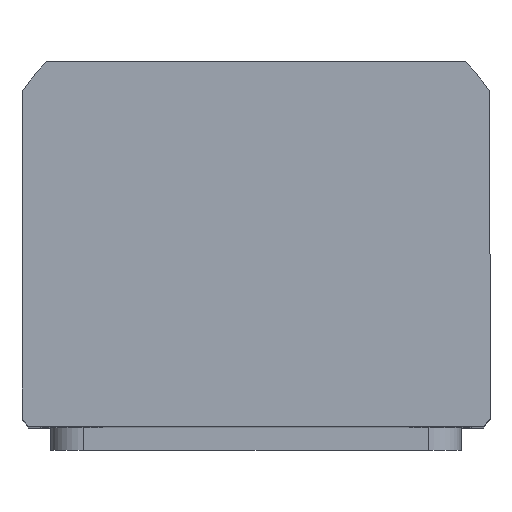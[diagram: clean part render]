
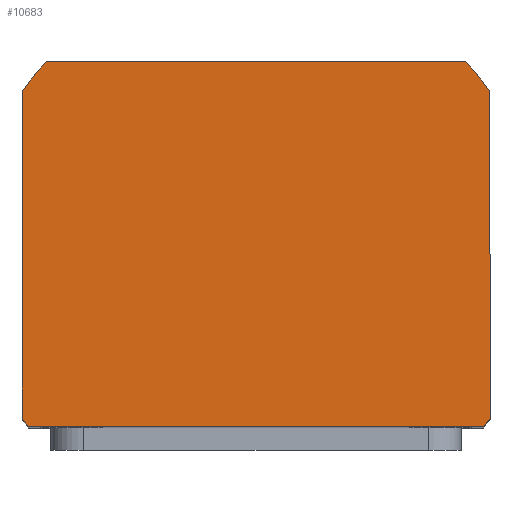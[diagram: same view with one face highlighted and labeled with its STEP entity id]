
A CAD part, top view. The second image highlights one B-rep face of the part: STEP entity #10683.
In plain terms, the highlighted planar face has unit normal (0, 0, 1) as drawn and (0, 0, -1) by its records, which use the part's own axes.
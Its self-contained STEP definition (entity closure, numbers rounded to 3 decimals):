
#323 = CARTESIAN_POINT ( 'NONE',  ( -57., 42.328, 0. ) ) ;
#528 = CARTESIAN_POINT ( 'NONE',  ( 0., 2.563, 0. ) ) ;
#536 = EDGE_CURVE ( 'NONE', #3616, #4615, #9359, .T. ) ;
#745 = CIRCLE ( 'NONE', #16888, 69.5 ) ;
#1037 = VERTEX_POINT ( 'NONE', #1146 ) ;
#1146 = CARTESIAN_POINT ( 'NONE',  ( -51.14, -44.5, 0. ) ) ;
#1536 = CARTESIAN_POINT ( 'NONE',  ( 0., 2.563, 0. ) ) ;
#1569 = AXIS2_PLACEMENT_3D ( 'NONE', #1536, #11390, #2962 ) ;
#1586 = CARTESIAN_POINT ( 'NONE',  ( -55.421, 44.5, 0. ) ) ;
#1763 = ORIENTED_EDGE ( 'NONE', *, *, #12204, .F. ) ;
#1967 = DIRECTION ( 'NONE',  ( 1., 0., 0. ) ) ;
#2164 = LINE ( 'NONE', #13005, #2602 ) ;
#2319 = DIRECTION ( 'NONE',  ( 0., 0., 1. ) ) ;
#2602 = VECTOR ( 'NONE', #6007, 1000. ) ;
#2962 = DIRECTION ( 'NONE',  ( 1., 0., 0. ) ) ;
#3616 = VERTEX_POINT ( 'NONE', #323 ) ;
#3721 = CARTESIAN_POINT ( 'NONE',  ( 57., -37.202, 0. ) ) ;
#3910 = EDGE_CURVE ( 'NONE', #1037, #7936, #14273, .T. ) ;
#4173 = DIRECTION ( 'NONE',  ( 0., 0., 1. ) ) ;
#4186 = EDGE_CURVE ( 'NONE', #14563, #15499, #2164, .T. ) ;
#4615 = VERTEX_POINT ( 'NONE', #16025 ) ;
#4719 = CARTESIAN_POINT ( 'NONE',  ( -57., -44.5, 0. ) ) ;
#5542 = CARTESIAN_POINT ( 'NONE',  ( 0., 2.563, 0. ) ) ;
#5807 = CARTESIAN_POINT ( 'NONE',  ( 51.14, -44.5, 0. ) ) ;
#5818 = EDGE_CURVE ( 'NONE', #17906, #13434, #13362, .T. ) ;
#6007 = DIRECTION ( 'NONE',  ( -1., 0., 0. ) ) ;
#6036 = AXIS2_PLACEMENT_3D ( 'NONE', #12592, #4173, #13994 ) ;
#6183 = CIRCLE ( 'NONE', #1569, 69.5 ) ;
#6200 = DIRECTION ( 'NONE',  ( 1., 0., 0. ) ) ;
#6500 = AXIS2_PLACEMENT_3D ( 'NONE', #528, #10409, #1967 ) ;
#6719 = AXIS2_PLACEMENT_3D ( 'NONE', #17764, #2319, #12169 ) ;
#6913 = EDGE_CURVE ( 'NONE', #4615, #1037, #6183, .T. ) ;
#6957 = DIRECTION ( 'NONE',  ( 1., 0., 0. ) ) ;
#7278 = EDGE_LOOP ( 'NONE', ( #15609, #11411, #14116, #18004, #14543, #16297, #1763, #12287 ) ) ;
#7936 = VERTEX_POINT ( 'NONE', #5807 ) ;
#9153 = CIRCLE ( 'NONE', #6500, 69.5 ) ;
#9359 = LINE ( 'NONE', #11601, #17721 ) ;
#9631 = VECTOR ( 'NONE', #11045, 1000. ) ;
#10409 = DIRECTION ( 'NONE',  ( 0., 0., 1. ) ) ;
#10683 = ADVANCED_FACE ( 'NONE', ( #14697 ), #16356, .F. ) ;
#10972 = VECTOR ( 'NONE', #6200, 1000. ) ;
#11045 = DIRECTION ( 'NONE',  ( 0., 1., 0. ) ) ;
#11390 = DIRECTION ( 'NONE',  ( 0., 0., 1. ) ) ;
#11411 = ORIENTED_EDGE ( 'NONE', *, *, #5818, .F. ) ;
#11451 = CARTESIAN_POINT ( 'NONE',  ( 57., 42.328, 0. ) ) ;
#11601 = CARTESIAN_POINT ( 'NONE',  ( -57., 44.5, 0. ) ) ;
#12169 = DIRECTION ( 'NONE',  ( 1., 0., 0. ) ) ;
#12204 = EDGE_CURVE ( 'NONE', #15499, #3616, #12706, .T. ) ;
#12287 = ORIENTED_EDGE ( 'NONE', *, *, #4186, .F. ) ;
#12592 = CARTESIAN_POINT ( 'NONE',  ( 0., 2.563, 0. ) ) ;
#12706 = CIRCLE ( 'NONE', #6036, 69.5 ) ;
#13005 = CARTESIAN_POINT ( 'NONE',  ( -57., 44.5, 0. ) ) ;
#13186 = DIRECTION ( 'NONE',  ( 0., -1., 0. ) ) ;
#13362 = LINE ( 'NONE', #16771, #9631 ) ;
#13434 = VERTEX_POINT ( 'NONE', #11451 ) ;
#13994 = DIRECTION ( 'NONE',  ( 1., 0., 0. ) ) ;
#14116 = ORIENTED_EDGE ( 'NONE', *, *, #14642, .F. ) ;
#14273 = LINE ( 'NONE', #4719, #10972 ) ;
#14522 = CARTESIAN_POINT ( 'NONE',  ( 55.421, 44.5, 0. ) ) ;
#14543 = ORIENTED_EDGE ( 'NONE', *, *, #6913, .F. ) ;
#14563 = VERTEX_POINT ( 'NONE', #14522 ) ;
#14642 = EDGE_CURVE ( 'NONE', #7936, #17906, #9153, .T. ) ;
#14697 = FACE_OUTER_BOUND ( 'NONE', #7278, .T. ) ;
#15163 = EDGE_CURVE ( 'NONE', #13434, #14563, #745, .T. ) ;
#15385 = DIRECTION ( 'NONE',  ( 0., 0., 1. ) ) ;
#15499 = VERTEX_POINT ( 'NONE', #1586 ) ;
#15609 = ORIENTED_EDGE ( 'NONE', *, *, #15163, .F. ) ;
#16025 = CARTESIAN_POINT ( 'NONE',  ( -57., -37.202, 0. ) ) ;
#16297 = ORIENTED_EDGE ( 'NONE', *, *, #536, .F. ) ;
#16356 = PLANE ( 'NONE',  #6719 ) ;
#16771 = CARTESIAN_POINT ( 'NONE',  ( 57., 44.5, 0. ) ) ;
#16888 = AXIS2_PLACEMENT_3D ( 'NONE', #5542, #15385, #6957 ) ;
#17721 = VECTOR ( 'NONE', #13186, 1000. ) ;
#17764 = CARTESIAN_POINT ( 'NONE',  ( 0., 0., 0. ) ) ;
#17906 = VERTEX_POINT ( 'NONE', #3721 ) ;
#18004 = ORIENTED_EDGE ( 'NONE', *, *, #3910, .F. ) ;
